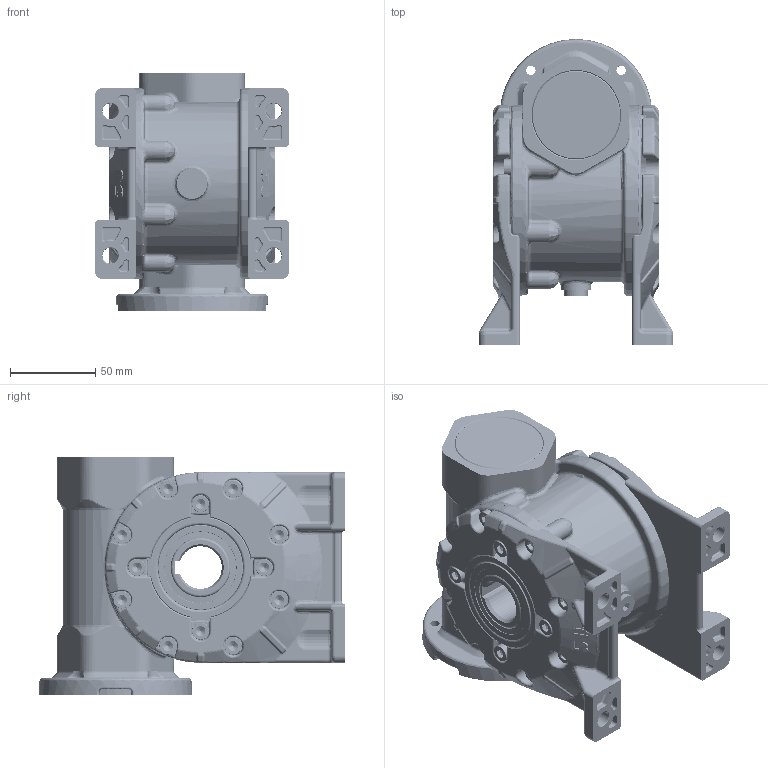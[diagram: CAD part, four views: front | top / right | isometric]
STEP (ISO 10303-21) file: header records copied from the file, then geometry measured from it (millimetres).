
FILE_DESCRIPTION (( 'STEP AP203' ), '1' );
FILE_NAME ('Sestava MRT50A-A.STEP', '2005-08-15T11:05:30', ( '' ), ( '' ), 'SwSTEP 2.0', 'SolidWorks 2004146', '' );
FILE_SCHEMA (( 'CONFIG_CONTROL_DESIGN' ));
Products named in the file (18): D472A_Kroužek 52 ÈSN 022931_Výchozí; N024630_Ložisko SKF 6205 ÈSN 024630_Výchozí; N024630_Ložisko SKF 6007 ÈSN 024630_Výchozí; Adaptér patky 50-1_Výchozí; n029401b_Tìsnìní AS 25x40x7 DIN 3760-NB_Výchozí; D6912_Šroub DIN 6912 - M6x16_Výchozí; Sestava MRT50A-A; NBRvíèko52-1_Výchozí; pøíruba 50 FT-1_Výchozí; pøíruba 50-75-1_Výchozí; Skøíò 50-1_Výchozí; D471A_Kroužek DIN 471-20x1.2_Výchozí; n029401b_Tìsnìní AS 35x50x7 DIN 3760-NB_Výchozí; N024630_Ložisko SKF 6304 ÈSN 024630_Výchozí; Šnek_MRT50_71-1_Výchozí; Šnekové kolo MRT50-1_Výchozí; ZatkaM10x1DIN908_Výchozí; D6912_Šroub DIN 6912 - M5x16_Výchozí
Assembly tree (40 placements, depth 2):
  Sestava MRT50A-A
    D6912_Šroub DIN 6912 - M6x16_Výchozí  x16
    D6912_Šroub DIN 6912 - M5x16_Výchozí  x6
    D471A_Kroužek DIN 471-20x1.2_Výchozí
    pøíruba 50-75-1_Výchozí
    Adaptér patky 50-1_Výchozí  x2
    N024630_Ložisko SKF 6007 ÈSN 024630_Výchozí  x2
    Šnekové kolo MRT50-1_Výchozí
    N024630_Ložisko SKF 6205 ÈSN 024630_Výchozí
    NBRvíèko52-1_Výchozí
    D472A_Kroužek 52 ÈSN 022931_Výchozí
    n029401b_Tìsnìní AS 25x40x7 DIN 3760-NB_Výchozí
    Šnek_MRT50_71-1_Výchozí
    ZatkaM10x1DIN908_Výchozí
    N024630_Ložisko SKF 6304 ÈSN 024630_Výchozí
    n029401b_Tìsnìní AS 35x50x7 DIN 3760-NB_Výchozí  x2
    pøíruba 50 FT-1_Výchozí
    Skøíò 50-1_Výchozí
Bounding box: 114 x 180 x 140 mm (x, y, z)
Volume: 703146.3 mm3; surface area: 342009.3 mm2
Topology: 40 solids, 42 shells, 4782 faces, 11644 edges, 6623 vertices
Faces by surface type: bspline 1859, cylinder 1176, plane 788, cone 611, torus 348
Entity records: 228296 total; most frequent: CARTESIAN_POINT 161486, ORIENTED_EDGE 15288, DIRECTION 11363, EDGE_CURVE 7648, AXIS2_PLACEMENT_3D 4875, VERTEX_POINT 4572, EDGE_LOOP 3294, FACE_OUTER_BOUND 3129
